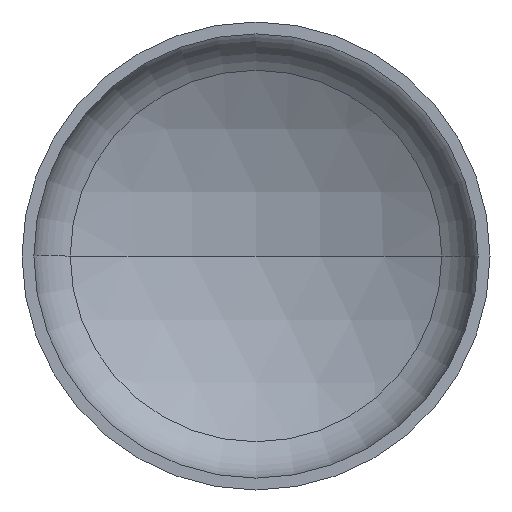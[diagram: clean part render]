
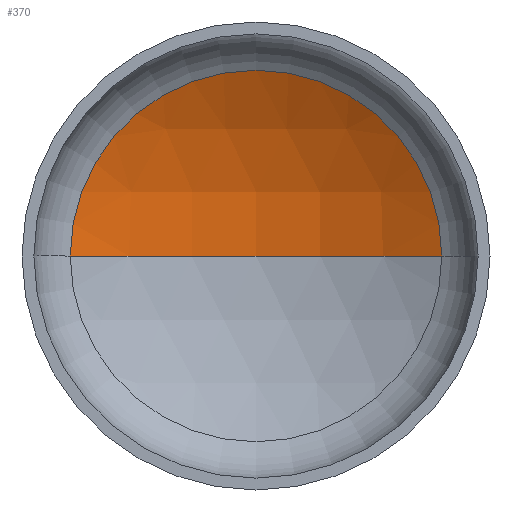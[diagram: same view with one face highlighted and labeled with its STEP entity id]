
A CAD part, front view. The second image highlights one B-rep face of the part: STEP entity #370.
In plain terms, the highlighted spherical face has radius 3600 mm.
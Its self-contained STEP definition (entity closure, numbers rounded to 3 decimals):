
#1 = AXIS2_PLACEMENT_3D ( 'NONE', #181, #393, #261 ) ;
#15 = DIRECTION ( 'NONE',  ( 1., 0., 0. ) ) ;
#24 = ORIENTED_EDGE ( 'NONE', *, *, #122, .F. ) ;
#30 = AXIS2_PLACEMENT_3D ( 'NONE', #185, #209, #373 ) ;
#34 = EDGE_LOOP ( 'NONE', ( #24, #136, #40 ) ) ;
#36 = AXIS2_PLACEMENT_3D ( 'NONE', #204, #206, #15 ) ;
#38 = AXIS2_PLACEMENT_3D ( 'NONE', #285, #74, #65 ) ;
#40 = ORIENTED_EDGE ( 'NONE', *, *, #98, .T. ) ;
#65 = DIRECTION ( 'NONE',  ( -1., 0., 0. ) ) ;
#70 = SPHERICAL_SURFACE ( 'NONE', #1, 3600. ) ;
#74 = DIRECTION ( 'NONE',  ( 0., 0., -1. ) ) ;
#88 = VERTEX_POINT ( 'NONE', #210 ) ;
#98 = EDGE_CURVE ( 'NONE', #118, #88, #227, .T. ) ;
#104 = VERTEX_POINT ( 'NONE', #231 ) ;
#108 = EDGE_CURVE ( 'NONE', #104, #118, #293, .T. ) ;
#118 = VERTEX_POINT ( 'NONE', #173 ) ;
#122 = EDGE_CURVE ( 'NONE', #104, #88, #410, .T. ) ;
#136 = ORIENTED_EDGE ( 'NONE', *, *, #108, .T. ) ;
#173 = CARTESIAN_POINT ( 'NONE',  ( 1785.749, 678.468, 0. ) ) ;
#181 = CARTESIAN_POINT ( 'NONE',  ( 0., -2447.408, 0. ) ) ;
#185 = CARTESIAN_POINT ( 'NONE',  ( 0., -2447.408, 0. ) ) ;
#204 = CARTESIAN_POINT ( 'NONE',  ( 0., 678.468, 0. ) ) ;
#206 = DIRECTION ( 'NONE',  ( 0., -1., 0. ) ) ;
#209 = DIRECTION ( 'NONE',  ( 0., 0., 1. ) ) ;
#210 = CARTESIAN_POINT ( 'NONE',  ( -1785.749, 678.468, 0. ) ) ;
#227 = CIRCLE ( 'NONE', #36, 1785.749 ) ;
#231 = CARTESIAN_POINT ( 'NONE',  ( 0., 1152.592, 0. ) ) ;
#261 = DIRECTION ( 'NONE',  ( -1., 0., 0. ) ) ;
#270 = FACE_OUTER_BOUND ( 'NONE', #34, .T. ) ;
#285 = CARTESIAN_POINT ( 'NONE',  ( 0., -2447.408, 0. ) ) ;
#293 = CIRCLE ( 'NONE', #38, 3600. ) ;
#370 = ADVANCED_FACE ( 'NONE', ( #270 ), #70, .F. ) ;
#373 = DIRECTION ( 'NONE',  ( 1., 0., 0. ) ) ;
#393 = DIRECTION ( 'NONE',  ( 0., 0., -1. ) ) ;
#410 = CIRCLE ( 'NONE', #30, 3600. ) ;
